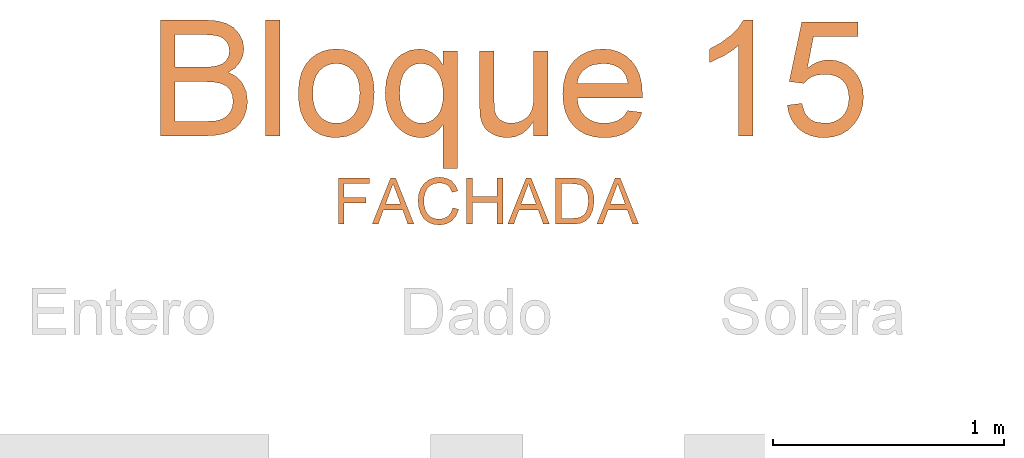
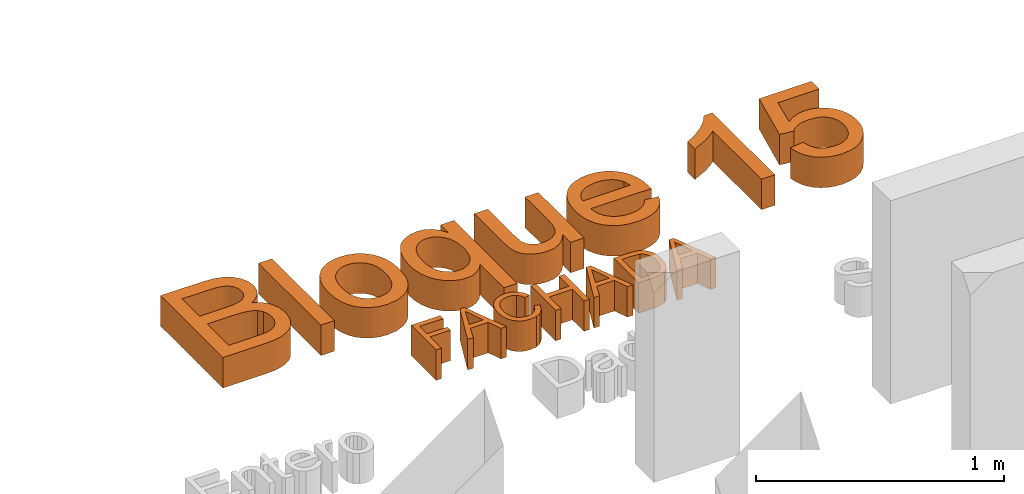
# One storey, part 14 of 19: 2 proxies.
"""IFC2X3 building model written with IfcOpenShell, lengths in metres."""

from ifc_helpers import new_model, entity, si_unit, converted_unit, derived_unit, direction, frame, frame_2d, origin, place, context, subcontext, project, spatial, polyline, rectangle, outline, extrude, type_object, element, save


model = new_model("IFC2X3")

# Units and contexts
model_context = context("Model", 3, precision=1e-05, world=origin(), true_north=direction((6.12303176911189e-17, 1.0)))
body_context = subcontext(model_context, "Body", "Model", "MODEL_VIEW")
ifc_project = project(units=[si_unit("LENGTHUNIT", "METRE"), si_unit("AREAUNIT", "SQUARE_METRE"), si_unit("VOLUMEUNIT", "CUBIC_METRE"), converted_unit("PLANEANGLEUNIT", "DEGREE", entity("IfcRatioMeasure", 0.0174532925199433), si_unit("PLANEANGLEUNIT", "RADIAN"), dimensions=[0, 0, 0, 0, 0, 0, 0]), si_unit("MASSUNIT", "GRAM", prefix="KILO"), derived_unit("MASSDENSITYUNIT", [(si_unit("MASSUNIT", "GRAM", prefix="KILO"), 1), (si_unit("LENGTHUNIT", "METRE"), -3)]), derived_unit("MOMENTOFINERTIAUNIT", [(si_unit("LENGTHUNIT", "METRE"), 4)]), si_unit("TIMEUNIT", "SECOND"), si_unit("FREQUENCYUNIT", "HERTZ"), si_unit("THERMODYNAMICTEMPERATUREUNIT", "DEGREE_CELSIUS"), derived_unit("THERMALTRANSMITTANCEUNIT", [(si_unit("MASSUNIT", "GRAM", prefix="KILO"), 1), (si_unit("THERMODYNAMICTEMPERATUREUNIT", "KELVIN"), -1), (si_unit("TIMEUNIT", "SECOND"), -3)]), derived_unit("VOLUMETRICFLOWRATEUNIT", [(si_unit("LENGTHUNIT", "METRE"), 3), (si_unit("TIMEUNIT", "SECOND"), -1)]), si_unit("ELECTRICCURRENTUNIT", "AMPERE"), si_unit("ELECTRICVOLTAGEUNIT", "VOLT"), si_unit("POWERUNIT", "WATT"), si_unit("FORCEUNIT", "NEWTON", prefix="KILO"), si_unit("ILLUMINANCEUNIT", "LUX"), si_unit("LUMINOUSFLUXUNIT", "LUMEN"), si_unit("LUMINOUSINTENSITYUNIT", "CANDELA"), derived_unit("USERDEFINED", [(si_unit("MASSUNIT", "GRAM", prefix="KILO"), -1), (si_unit("LENGTHUNIT", "METRE"), -2), (si_unit("TIMEUNIT", "SECOND"), 3), (si_unit("LUMINOUSFLUXUNIT", "LUMEN"), 1)]), derived_unit("LINEARVELOCITYUNIT", [(si_unit("LENGTHUNIT", "METRE"), 1), (si_unit("TIMEUNIT", "SECOND"), -1)]), si_unit("PRESSUREUNIT", "PASCAL"), derived_unit("USERDEFINED", [(si_unit("LENGTHUNIT", "METRE"), -2), (si_unit("MASSUNIT", "GRAM", prefix="KILO"), 1), (si_unit("TIMEUNIT", "SECOND"), -2)]), derived_unit("LINEARFORCEUNIT", [(si_unit("MASSUNIT", "GRAM", prefix="KILO"), 1), (si_unit("LENGTHUNIT", "METRE"), 1), (si_unit("TIMEUNIT", "SECOND"), -2), (si_unit("LENGTHUNIT", "METRE"), -1)]), derived_unit("PLANARFORCEUNIT", [(si_unit("MASSUNIT", "GRAM", prefix="KILO"), 1), (si_unit("LENGTHUNIT", "METRE"), 1), (si_unit("TIMEUNIT", "SECOND"), -2), (si_unit("LENGTHUNIT", "METRE"), -2)])], contexts=[model_context])

# Site, building, storey
site_placement = place(None, origin())
site = spatial("IfcSite", under=ifc_project, at=site_placement, Name="Default", CompositionType="ELEMENT")
building_placement = place(site_placement, origin())
building = spatial("IfcBuilding", under=site, at=building_placement, CompositionType="ELEMENT")
storey_placement = place(building_placement, origin())
storey = spatial("IfcBuildingStorey", under=building, at=storey_placement, Name="Nivel 1", CompositionType="ELEMENT", Elevation=0.0)

# Proxies
building_element_proxy_type_1 = type_object("IfcBuildingElementProxyType", Name="Texto de modelo:Título", PredefinedType="NOTDEFINED")
proxy_1_placement = place(storey_placement, origin())
element("IfcBuildingElementProxy", 1, at=proxy_1_placement, inside=storey, type_object=building_element_proxy_type_1, Name="Texto de modelo:Título", ObjectType="Texto de modelo:Título", context=body_context, shape_type="SweptSolid", body=[
    extrude(outline(polyline([(-0.292681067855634, -0.24358102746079), (-0.102486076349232, -0.24358102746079), (-0.0585088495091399, -0.241419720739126), (-0.0219812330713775, -0.234935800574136), (0.00807779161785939, -0.224236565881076), (0.032649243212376, -0.209429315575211), (0.0527141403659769, -0.188981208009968), (0.0692535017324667, -0.161359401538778), (0.0803359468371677, -0.12887848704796), (0.0840300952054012, -0.0938530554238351), (0.0786191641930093, -0.0518225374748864), (0.0623863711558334, -0.0157394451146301), (0.0504033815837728, -0.000395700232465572), (0.0360981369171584, 0.01252615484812), (0.0194706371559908, 0.0230261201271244), (0.000520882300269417, 0.0311041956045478), (0.030303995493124, 0.0506785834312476), (0.0514725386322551, 0.0755566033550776), (0.0641184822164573, 0.10399081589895), (0.0683337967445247, 0.134233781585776), (0.0633214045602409, 0.167097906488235), (0.0482842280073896, 0.198490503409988), (0.0244025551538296, 0.225177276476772), (-0.00714332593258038, 0.243923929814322), (-0.048300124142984, 0.255006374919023), (-0.101014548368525, 0.258700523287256), (-0.292681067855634, 0.258700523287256), (-0.292681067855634, -0.24358102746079)]), holes=[polyline([(-0.229895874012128, 0.0546486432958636), (-0.229895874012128, 0.19591532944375), (-0.123945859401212, 0.19591532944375), (-0.0752014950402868, 0.19427518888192), (-0.0432570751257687, 0.189354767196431), (-0.0224410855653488, 0.18001976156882), (-0.00708201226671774, 0.165135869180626), (0.00239094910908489, 0.146067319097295), (0.00554860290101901, 0.124178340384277), (0.00216102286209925, 0.101630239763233), (-0.00800171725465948, 0.083282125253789), (-0.0248476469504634, 0.0693485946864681), (-0.0482847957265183, 0.0600442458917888), (-0.0751401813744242, 0.0559975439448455), (-0.115239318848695, 0.0546486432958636), (-0.229895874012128, 0.0546486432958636)]), polyline([(-0.229895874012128, -0.180795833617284), (-0.229895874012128, -0.00813655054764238), (-0.107268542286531, -0.00813655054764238), (-0.0625555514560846, -0.0102365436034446), (-0.0297067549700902, -0.0165365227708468), (-0.00651486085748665, -0.0280175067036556), (0.00922742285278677, -0.0456605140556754), (0.0182405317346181, -0.0682239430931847), (0.0212449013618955, -0.0944661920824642), (0.0186850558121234, -0.117060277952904), (0.0110055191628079, -0.136772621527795), (-0.000644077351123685, -0.152882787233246), (-0.0151141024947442, -0.164670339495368), (-0.0329103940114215, -0.172901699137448), (-0.0545387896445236, -0.178343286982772), (-0.101137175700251, -0.180795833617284), (-0.229895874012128, -0.180795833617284)])]), frame((1.77366628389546, 11.1571087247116, 0.0)), (0.0, 0.0, 1.0), 0.15),
    extrude(rectangle(XDim=0.062785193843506, YDim=0.502281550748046, at=frame_2d((0.0, 1.08246744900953e-15), x_axis=(1.0, 0.0))), frame((1.967570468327, 11.1646684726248, 0.0)), (0.0, 0.0, 1.0), 0.15),
    extrude(outline(polyline([(-0.013195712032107, -0.170548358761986), (0.0307665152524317, -0.170548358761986), (0.0696520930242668, -0.164512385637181), (0.103461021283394, -0.152440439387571), (0.132193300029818, -0.134332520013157), (0.155411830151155, -0.111243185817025), (0.172679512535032, -0.0842269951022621), (0.183996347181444, -0.0532839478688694), (0.189362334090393, -0.018414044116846), (0.186618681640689, 0.0261717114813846), (0.17241528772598, 0.0679068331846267), (0.161237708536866, 0.0869767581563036), (0.147638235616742, 0.103876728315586), (0.131616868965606, 0.118606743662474), (0.113173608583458, 0.131166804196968), (0.0915479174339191, 0.141494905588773), (0.0659792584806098, 0.149529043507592), (0.00301303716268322, 0.158715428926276), (-0.0385534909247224, 0.158529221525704), (-0.0757586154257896, 0.152292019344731), (-0.108602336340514, 0.140003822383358), (-0.1370846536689, 0.121664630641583), (-0.160392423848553, 0.0984428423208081), (-0.177712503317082, 0.0715068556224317), (-0.189044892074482, 0.0408566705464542), (-0.19438959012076, 0.00649228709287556), (-0.1938749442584, -0.0249843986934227), (-0.188105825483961, -0.054313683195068), (-0.177082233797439, -0.0814955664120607), (-0.160804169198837, -0.106530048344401), (-0.134450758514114, -0.132057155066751), (-0.101064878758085, -0.151235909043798), (-0.0606465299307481, -0.164066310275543), (-0.013195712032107, -0.170548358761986)]), holes=[polyline([(-0.00925174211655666, -0.107887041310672), (-0.0395162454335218, -0.104102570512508), (-0.0654537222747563, -0.0969584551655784), (-0.0870641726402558, -0.0864546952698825), (-0.104347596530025, -0.0725912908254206), (-0.117399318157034, -0.0562452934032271), (-0.126314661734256, -0.0382937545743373), (-0.131093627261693, -0.0187366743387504), (-0.131736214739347, 0.00242594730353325), (-0.128372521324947, 0.0230712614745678), (-0.121092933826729, 0.0416882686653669), (-0.109897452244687, 0.0582769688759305), (-0.0947860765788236, 0.0728373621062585), (-0.0759345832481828, 0.0844361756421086), (-0.0535187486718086, 0.0921401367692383), (-0.0275385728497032, 0.0959492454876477), (0.00200594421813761, 0.0958635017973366), (0.0329855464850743, 0.0920326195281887), (0.0594775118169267, 0.0848525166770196), (0.0814818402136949, 0.0743231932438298), (0.0989985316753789, 0.060444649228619), (0.112185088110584, 0.0441052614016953), (0.12119901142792, 0.0261934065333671), (0.126040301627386, 0.006709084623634), (0.126708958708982, -0.0143477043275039), (0.123328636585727, -0.03524923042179), (0.116038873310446, -0.054023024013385), (0.10483966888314, -0.0706690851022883), (0.0897310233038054, -0.0851874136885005), (0.0707470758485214, -0.0966969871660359), (0.047921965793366, -0.10431678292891), (0.0212556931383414, -0.108046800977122), (-0.00925174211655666, -0.107887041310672)])]), frame((2.24848947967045, 11.0958369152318, 0.0), z_axis=(0.0, 0.0, 1.0), x_axis=(0.0647659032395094, -0.997900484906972, 0.0)), (0.0, 0.0, 1.0), 0.15),
    extrude(outline(polyline([(0.11312234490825, -0.311998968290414), (0.175907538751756, -0.311998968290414), (0.175907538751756, 0.198130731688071), (0.11312234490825, 0.198130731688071), (0.11312234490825, 0.135590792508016), (0.092674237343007, 0.166385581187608), (0.0687312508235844, 0.188381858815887), (0.041293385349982, 0.201579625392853), (0.0103606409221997, 0.20597888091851), (-0.0296465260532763, 0.2003073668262), (-0.0662814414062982, 0.183292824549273), (-0.0827211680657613, 0.170616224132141), (-0.0970915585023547, 0.155272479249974), (-0.119624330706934, 0.116583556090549), (-0.133419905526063, 0.0697092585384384), (-0.138018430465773, 0.0171327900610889), (-0.135121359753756, -0.0259975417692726), (-0.126430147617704, -0.0642764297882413), (-0.111944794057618, -0.0977038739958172), (-0.091665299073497, -0.126279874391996), (-0.0673774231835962, -0.149161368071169), (-0.0408669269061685, -0.165505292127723), (-0.0121338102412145, -0.175311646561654), (0.018821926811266, -0.178580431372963), (0.046842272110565, -0.174441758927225), (0.073268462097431, -0.162025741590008), (0.096046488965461, -0.143355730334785), (0.11312234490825, -0.120455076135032), (0.11312234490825, -0.311998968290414)]), holes=[polyline([(-0.0752332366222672, 0.0136992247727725), (-0.0735586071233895, 0.04479674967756), (-0.0685347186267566, 0.071502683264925), (-0.0601615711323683, 0.0938170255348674), (-0.0484391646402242, 0.111739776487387), (-0.0343101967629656, 0.125500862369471), (-0.0187173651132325, 0.135330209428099), (-0.0016606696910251, 0.141227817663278), (0.0168598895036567, 0.143193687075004), (0.0356103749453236, 0.141082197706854), (0.0531115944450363, 0.134747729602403), (0.0693635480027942, 0.124190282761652), (0.084366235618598, 0.109409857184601), (0.0969470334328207, 0.090444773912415), (0.105933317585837, 0.0673333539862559), (0.111325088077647, 0.0400755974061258), (0.11312234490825, 0.00867150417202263), (0.111417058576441, -0.0207743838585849), (0.106301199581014, -0.0462042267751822), (0.0977747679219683, -0.0676180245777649), (0.0858377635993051, -0.0850157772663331), (0.0715401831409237, -0.098481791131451), (0.0559320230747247, -0.108100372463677), (0.0390132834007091, -0.113871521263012), (0.0207839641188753, -0.115795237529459), (0.00174223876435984, -0.113771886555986), (-0.0158969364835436, -0.107701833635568), (-0.0321335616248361, -0.0975850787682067), (-0.0469676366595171, -0.0834216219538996), (-0.0593338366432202, -0.0652114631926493), (-0.0681668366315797, -0.0429546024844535), (-0.0734666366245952, -0.0166510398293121), (-0.0752332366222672, 0.0136992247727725)])]), frame((2.59217415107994, 11.0842599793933, 0.0)), (0.0, 0.0, 1.0), 0.15),
    extrude(outline(polyline([(0.099374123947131, -0.102697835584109), (0.162159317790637, -0.102697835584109), (0.162159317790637, 0.266165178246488), (0.099374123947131, 0.266165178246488), (0.099374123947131, 0.0742534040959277), (0.0968296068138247, 0.0338323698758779), (0.0891960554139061, 0.00429451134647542), (0.0754464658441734, -0.017272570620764), (0.0545538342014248, -0.0337812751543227), (0.0292159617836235, -0.0442659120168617), (0.00213064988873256, -0.0477607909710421), (-0.0234831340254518, -0.0443425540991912), (-0.0446516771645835, -0.0340878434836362), (-0.060332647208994, -0.0178550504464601), (-0.0694837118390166, 0.00349743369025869), (-0.0732851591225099, 0.0675089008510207), (-0.0732851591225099, 0.266165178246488), (-0.136070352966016, 0.266165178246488), (-0.136070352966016, 0.0379557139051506), (-0.132391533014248, -0.0204148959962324), (-0.125018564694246, -0.0456454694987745), (-0.113690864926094, -0.0666454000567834), (-0.0968602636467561, -0.0839358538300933), (-0.0729785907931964, -0.0980379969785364), (-0.0445137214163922, -0.107418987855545), (-0.0139335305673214, -0.110545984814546), (0.020003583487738, -0.106093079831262), (0.0502005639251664, -0.092734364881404), (0.0766574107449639, -0.0704698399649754), (0.099374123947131, -0.0392995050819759), (0.099374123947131, -0.102697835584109)])), frame((2.99832983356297, 11.0162255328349, 0.0)), (0.0, 0.0, 1.0), 0.15),
    extrude(outline(polyline([(-0.0285819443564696, -0.11250239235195), (-0.0578029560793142, -0.16724932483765), (-0.0322328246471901, -0.173818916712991), (-0.00713898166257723, -0.176000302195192), (0.0174785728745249, -0.173793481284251), (0.0416198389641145, -0.167198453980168), (0.0648944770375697, -0.156182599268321), (0.0869121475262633, -0.140713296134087), (0.107672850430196, -0.120790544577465), (0.127176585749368, -0.0964143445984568), (0.14718490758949, -0.0628437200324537), (0.159666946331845, -0.0291392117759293), (0.164622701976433, 0.0046991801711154), (0.162052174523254, 0.0386714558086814), (0.151934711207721, 0.0717021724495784), (0.134249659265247, 0.102715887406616), (0.108997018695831, 0.131712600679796), (0.076176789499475, 0.158692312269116), (0.0386809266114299, 0.181565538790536), (0.00190165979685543, 0.196468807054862), (-0.0341610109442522, 0.203402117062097), (-0.069507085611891, 0.20236546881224), (-0.102928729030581, 0.194014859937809), (-0.133218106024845, 0.179006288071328), (-0.16037521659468, 0.157339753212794), (-0.18440006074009, 0.129015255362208), (-0.202515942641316, 0.0979595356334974), (-0.213436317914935, 0.0659991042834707), (-0.217161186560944, 0.0331339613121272), (-0.213690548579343, -0.000635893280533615), (-0.202780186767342, -0.0339331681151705), (-0.184185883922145, -0.0653805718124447), (-0.157907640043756, -0.0949781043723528), (-0.123945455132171, -0.122725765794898), (-0.109931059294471, -0.132218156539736), (0.0533469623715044, 0.0979071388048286), (0.0716760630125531, 0.0804432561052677), (0.0853873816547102, 0.0618484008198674), (0.094480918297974, 0.042122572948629), (0.0989566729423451, 0.0212657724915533), (0.0991008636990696, 5.22501907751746e-05), (0.0951997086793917, -0.0207437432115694), (0.0872532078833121, -0.0411222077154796), (0.0752613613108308, -0.0610831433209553), (0.0532495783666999, -0.0864379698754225), (0.0289384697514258, -0.103695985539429), (0.00182798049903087, -0.11250239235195), (-0.0285819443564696, -0.11250239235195)]), holes=[polyline([(0.00214133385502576, 0.134238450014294), (-0.125018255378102, -0.0449812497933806), (-0.147157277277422, -0.0188609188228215), (-0.156876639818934, 0.00844625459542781), (-0.157470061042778, 0.0298610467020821), (-0.153697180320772, 0.0510722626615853), (-0.145557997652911, 0.0720799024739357), (-0.133052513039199, 0.0928839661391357), (-0.103774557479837, 0.124003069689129), (-0.0871344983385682, 0.134773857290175), (-0.0691603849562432, 0.142352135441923), (-0.0507231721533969, 0.146331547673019), (-0.0326938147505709, 0.146305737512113), (-0.0150723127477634, 0.142274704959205), (0.00214133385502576, 0.134238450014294)])]), frame((3.39677930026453, 11.0651919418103, 0.0), z_axis=(0.0, 0.0, -1.0), x_axis=(-0.578660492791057, -0.815568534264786, 0.0)), (0.0, 0.0, -1.0), 0.15),
    extrude(outline(polyline([(-0.343143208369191, -0.0876683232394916), (0.159138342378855, -0.0876683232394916), (0.159138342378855, -0.0472013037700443), (0.126243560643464, -0.0250210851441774), (0.092306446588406, 0.00865544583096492), (0.0603926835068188, 0.05137574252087), (0.0335679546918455, 0.100687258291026), (-0.0257836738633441, 0.100687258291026), (0.00591549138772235, 0.0345911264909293), (0.0270840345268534, 0.00132846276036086), (0.0482832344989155, -0.0248831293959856), (-0.343143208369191, -0.0248831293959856), (-0.343143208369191, -0.0876683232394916)])), frame((3.95966169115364, 11.25667090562, 0.0), z_axis=(0.0, 0.0, 1.0), x_axis=(0.0, 1.0, 0.0)), (0.0, 0.0, 1.0), 0.15),
    extrude(outline(polyline([(0.0124581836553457, -0.18564986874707), (0.0432971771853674, -0.18564986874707), (0.071832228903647, -0.180581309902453), (0.0980633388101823, -0.170444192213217), (0.121990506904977, -0.155238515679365), (0.142656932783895, -0.135534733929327), (0.159105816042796, -0.111903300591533), (0.171337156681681, -0.0843442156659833), (0.179350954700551, -0.0528574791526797), (0.182450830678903, -0.0136506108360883), (0.177382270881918, 0.0225776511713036), (0.164145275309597, 0.0558273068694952), (0.142739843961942, 0.0860983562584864), (0.120404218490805, 0.107529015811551), (0.0949791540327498, 0.124508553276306), (0.0664646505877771, 0.137036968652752), (0.0348607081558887, 0.14511426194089), (0.00113072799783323, 0.148290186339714), (-0.0303806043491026, 0.145517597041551), (-0.0596732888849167, 0.1367964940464), (-0.0867473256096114, 0.12212687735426), (-0.110157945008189, 0.102771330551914), (-0.128460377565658, 0.0799924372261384), (-0.141654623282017, 0.0537901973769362), (-0.149740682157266, 0.0241646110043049), (-0.15163827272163, 0.000365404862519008), (-0.148974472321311, -0.0236942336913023), (-0.141749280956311, -0.0480143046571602), (-0.129962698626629, -0.0725948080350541), (-0.261490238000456, -0.0219811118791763), (-0.22802131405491, 0.167612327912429), (-0.289850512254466, 0.178527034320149), (-0.332144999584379, -0.0610611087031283), (-0.086649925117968, -0.160184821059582), (-0.068006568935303, -0.0997199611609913), (-0.0808497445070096, -0.0816538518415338), (-0.0897733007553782, -0.0600770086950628), (-0.0935465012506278, -0.0343661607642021), (-0.0909386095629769, -0.00389803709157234), (-0.0849220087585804, 0.0203531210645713), (-0.0761241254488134, 0.040696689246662), (-0.0645449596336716, 0.0571326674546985), (-0.0501845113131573, 0.0696610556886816), (-0.033496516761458, 0.0784008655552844), (-0.014934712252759, 0.0834711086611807), (0.00550090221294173, 0.08487178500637), (0.0278103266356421, 0.0826028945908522), (0.0508081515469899, 0.0767608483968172), (0.0707730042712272, 0.0678897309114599), (0.0877048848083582, 0.0559895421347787), (0.101603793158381, 0.0410602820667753), (0.111888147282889, 0.023554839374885), (0.117976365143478, 0.00392610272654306), (0.119868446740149, -0.0178259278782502), (0.117564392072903, -0.0417012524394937), (0.105803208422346, -0.0771999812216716), (0.0964738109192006, -0.0911418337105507), (0.0848452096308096, -0.102545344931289), (0.0709364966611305, -0.111390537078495), (0.0547667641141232, -0.117657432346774), (0.0156442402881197, -0.12245633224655), (0.0124581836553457, -0.18564986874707)])), frame((4.37710217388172, 11.0914884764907, 0.0), z_axis=(0.0, 0.0, 1.0), x_axis=(0.173842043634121, -0.984773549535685, 0.0)), (0.0, 0.0, 1.0), 0.15),
])
building_element_proxy_type_2 = type_object("IfcBuildingElementProxyType", Name="Texto de modelo:Subtítulo", PredefinedType="NOTDEFINED")
proxy_2_placement = place(storey_placement, origin())
element("IfcBuildingElementProxy", 2, at=proxy_2_placement, inside=storey, type_object=building_element_proxy_type_2, Name="Texto de modelo:Subtítulo", ObjectType="Texto de modelo:Subtítulo", context=body_context, shape_type="SweptSolid", body=[
    extrude(outline(polyline([(-0.0609016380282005, -0.116780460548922), (-0.0357875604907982, -0.116780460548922), (-0.0357875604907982, -0.0257419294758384), (0.0583902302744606, -0.0257419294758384), (0.0583902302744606, -0.000627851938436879), (-0.0357875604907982, -0.000627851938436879), (-0.0357875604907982, 0.0590180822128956), (0.0740865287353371, 0.0590180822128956), (0.0740865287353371, 0.0841321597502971), (-0.0609016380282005, 0.0841321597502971), (-0.0609016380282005, -0.116780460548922)])), frame((2.3121710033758, 10.6477158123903, 0.0)), (0.0, 0.0, 1.0), 0.15),
    extrude(outline(polyline([(-0.0908607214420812, -0.0659244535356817), (-0.0643732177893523, -0.0659244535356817), (-0.0414173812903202, -0.00313925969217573), (0.0413805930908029, -0.00313925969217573), (0.0643364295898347, -0.0659244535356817), (0.0908729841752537, -0.0659244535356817), (0.0107237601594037, 0.134988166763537), (-0.0106624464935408, 0.134988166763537), (-0.0908607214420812, -0.0659244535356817)]), holes=[polyline([(-0.0321958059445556, 0.0219748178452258), (-0.0125263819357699, 0.0756855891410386), (-1.83940997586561e-05, 0.109874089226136), (0.0140592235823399, 0.0713691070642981), (0.0322080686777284, 0.0219748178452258), (-0.0321958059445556, 0.0219748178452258)])]), frame((2.4883018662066, 10.5968598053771, 0.0)), (0.0, 0.0, 1.0), 0.15),
    extrude(outline(polyline([(0.00355232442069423, -0.0754517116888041), (0.000735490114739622, -0.101233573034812), (0.0322073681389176, -0.100733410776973), (0.0586340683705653, -0.0912753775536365), (0.0793092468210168, -0.0735495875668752), (0.0935265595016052, -0.0482461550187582), (0.100733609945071, -0.0198295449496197), (0.0996500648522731, 0.00530853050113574), (0.0908072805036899, 0.0276031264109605), (0.0747366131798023, 0.0474892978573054), (0.0532622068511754, 0.0640355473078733), (0.0282082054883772, 0.0763103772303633), (-0.000248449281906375, 0.0838799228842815), (-0.027066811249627, 0.0844731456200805), (-0.0513308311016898, 0.0782421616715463), (-0.0721244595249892, 0.0653390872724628), (-0.088745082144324, 0.0469994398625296), (-0.100490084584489, 0.0244587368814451), (-0.106560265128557, -0.0026831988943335), (-0.103625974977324, -0.0281270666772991), (-0.0921127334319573, -0.0509518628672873), (-0.0724460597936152, -0.0702365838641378), (-0.0579739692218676, -0.0488570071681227), (-0.0720305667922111, -0.0342408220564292), (-0.0795803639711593, -0.0186741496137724), (-0.0809958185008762, -0.00185900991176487), (-0.076649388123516, 0.0165025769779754), (-0.0665154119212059, 0.0357323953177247), (-0.0527173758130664, 0.049462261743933), (-0.0361963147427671, 0.0575953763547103), (-0.0178932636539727, 0.0600349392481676), (0.000999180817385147, 0.0580310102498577), (0.0192884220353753, 0.0528336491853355), (0.0403234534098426, 0.042863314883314), (0.0570828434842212, 0.0304574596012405), (0.0687737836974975, 0.0156861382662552), (0.0746034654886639, -0.001380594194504), (0.0751312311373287, -0.0194006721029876), (0.0709164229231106, -0.0370320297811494), (0.0605954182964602, -0.0555423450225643), (0.0456816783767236, -0.0685820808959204), (0.026544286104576, -0.0754517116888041), (0.00355232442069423, -0.0754517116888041)])), frame((2.67794299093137, 10.6323370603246, 0.0), z_axis=(0.0, 0.0, -1.0), x_axis=(-0.35334352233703, -0.935493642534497, 0.0)), (0.0, 0.0, -1.0), 0.15),
    extrude(outline(polyline([(-0.078481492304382, -0.102549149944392), (-0.0533674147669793, -0.102549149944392), (-0.0533674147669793, -0.00837135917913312), (0.0533674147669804, -0.00837135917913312), (0.0533674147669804, -0.102549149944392), (0.078481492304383, -0.102549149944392), (0.078481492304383, 0.0983634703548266), (0.0533674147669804, 0.0983634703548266), (0.0533674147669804, 0.0167427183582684), (-0.0533674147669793, 0.0167427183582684), (-0.0533674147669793, 0.0983634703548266), (-0.078481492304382, 0.0983634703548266), (-0.078481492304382, -0.102549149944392)])), frame((2.88539982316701, 10.6334845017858, 0.0)), (0.0, 0.0, 1.0), 0.15),
    extrude(outline(polyline([(-0.0908607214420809, -0.0659244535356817), (-0.0643732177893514, -0.0659244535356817), (-0.0414173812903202, -0.00313925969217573), (0.0413805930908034, -0.00313925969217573), (0.0643364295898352, -0.0659244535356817), (0.0908729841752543, -0.0659244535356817), (0.0107237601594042, 0.134988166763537), (-0.0106624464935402, 0.134988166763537), (-0.0908607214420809, -0.0659244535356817)]), holes=[polyline([(-0.032195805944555, 0.0219748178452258), (-0.0125263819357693, 0.0756855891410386), (-1.83940997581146e-05, 0.109874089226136), (0.0140592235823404, 0.0713691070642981), (0.0322080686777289, 0.0219748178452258), (-0.032195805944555, 0.0219748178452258)])]), frame((3.07534342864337, 10.5968598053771, 0.0)), (0.0, 0.0, 1.0), 0.15),
    extrude(outline(polyline([(-0.112205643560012, -0.108781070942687), (-0.0395612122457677, -0.108781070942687), (-0.00726117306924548, -0.105347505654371), (0.0167492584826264, -0.0952675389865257), (0.0350943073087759, -0.0770451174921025), (0.0488285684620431, -0.0477862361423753), (0.0541751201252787, -0.00724564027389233), (0.0522008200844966, 0.0181382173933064), (0.0462779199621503, 0.0405299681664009), (0.0363818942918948, 0.0595617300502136), (0.0224882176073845, 0.074865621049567), (0.00897468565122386, 0.0836580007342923), (-0.00704044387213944, 0.0892375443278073), (-0.0428966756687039, 0.0921315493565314), (-0.112205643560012, 0.0921315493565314), (-0.112205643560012, -0.108781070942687)]), holes=[polyline([(-0.0870915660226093, -0.0836669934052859), (-0.0870915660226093, 0.0670174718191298), (-0.0433381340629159, 0.0670174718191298), (-0.00772715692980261, 0.06299529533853), (0.00646695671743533, 0.0546075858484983), (0.0183434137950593, 0.0407261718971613), (0.0263816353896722, 0.0205171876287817), (0.0290610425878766, -0.00685323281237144), (0.0276937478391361, -0.0275098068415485), (0.0235918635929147, -0.04484318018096), (0.0170374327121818, -0.0589146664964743), (0.00831249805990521, -0.0697855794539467), (-0.0103268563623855, -0.0800372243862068), (-0.0426514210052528, -0.0836669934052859), (-0.0870915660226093, -0.0836669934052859)])]), frame((3.3052529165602, 10.6397164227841, 0.0)), (0.0, 0.0, 1.0), 0.15),
    extrude(outline(polyline([(-0.0908607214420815, -0.0659244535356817), (-0.064373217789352, -0.0659244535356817), (-0.0414173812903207, -0.00313925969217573), (0.0413805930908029, -0.00313925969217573), (0.0643364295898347, -0.0659244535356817), (0.0908729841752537, -0.0659244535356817), (0.0107237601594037, 0.134988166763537), (-0.0106624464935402, 0.134988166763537), (-0.0908607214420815, -0.0659244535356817)]), holes=[polyline([(-0.0321958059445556, 0.0219748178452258), (-0.0125263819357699, 0.0756855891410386), (-1.83940997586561e-05, 0.109874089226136), (0.0140592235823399, 0.0713691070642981), (0.0322080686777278, 0.0219748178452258), (-0.0321958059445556, 0.0219748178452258)])]), frame((3.46147237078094, 10.5968598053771, 0.0)), (0.0, 0.0, 1.0), 0.15),
])

save(model, "model.ifc")
